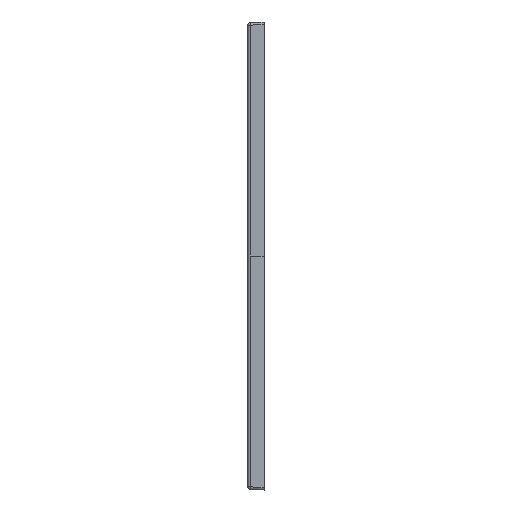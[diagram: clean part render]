
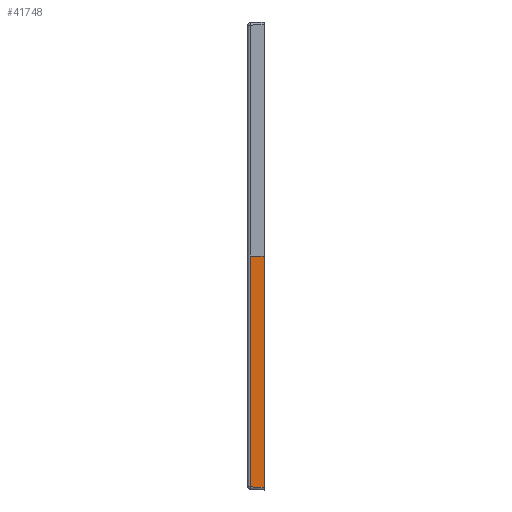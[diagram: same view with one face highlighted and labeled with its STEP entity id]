
A CAD part, left-side view. The second image highlights one B-rep face of the part: STEP entity #41748.
In plain terms, the highlighted free-form (B-spline) face has degree [5, 1] with [6, 2] control points.
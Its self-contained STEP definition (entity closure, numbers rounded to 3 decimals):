
#41679=CARTESIAN_POINT('Vertex',(-600.,0.,-445.003)) ;
#41682=CARTESIAN_POINT('Line Origine',(-599.45,15.75,-444.453)) ;
#41686=CARTESIAN_POINT('Vertex',(-599.069,26.674,-444.072)) ;
#41702=CARTESIAN_POINT('Control Point',(-596.51,99.939,-450.)) ;
#41703=CARTESIAN_POINT('Control Point',(-600.,0.,-450.)) ;
#41704=CARTESIAN_POINT('Control Point',(-596.51,99.939,-270.)) ;
#41705=CARTESIAN_POINT('Control Point',(-600.,0.,-270.)) ;
#41706=CARTESIAN_POINT('Control Point',(-596.51,99.939,-90.)) ;
#41707=CARTESIAN_POINT('Control Point',(-600.,0.,-90.)) ;
#41708=CARTESIAN_POINT('Control Point',(-596.51,99.939,90.)) ;
#41709=CARTESIAN_POINT('Control Point',(-600.,0.,90.)) ;
#41710=CARTESIAN_POINT('Control Point',(-596.51,99.939,270.)) ;
#41711=CARTESIAN_POINT('Control Point',(-600.,0.,270.)) ;
#41712=CARTESIAN_POINT('Control Point',(-596.51,99.939,450.)) ;
#41713=CARTESIAN_POINT('Control Point',(-600.,0.,450.)) ;
#41715=CARTESIAN_POINT('Control Point',(-599.069,26.674,-444.072)) ;
#41716=CARTESIAN_POINT('Control Point',(-599.069,26.674,-355.257)) ;
#41717=CARTESIAN_POINT('Control Point',(-599.069,26.674,-266.443)) ;
#41718=CARTESIAN_POINT('Control Point',(-599.069,26.674,-177.629)) ;
#41719=CARTESIAN_POINT('Control Point',(-599.069,26.674,-88.814)) ;
#41720=CARTESIAN_POINT('Control Point',(-599.069,26.674,0.)) ;
#41721=CARTESIAN_POINT('Vertex',(-599.069,26.674,0.)) ;
#41725=CARTESIAN_POINT('Control Point',(-600.,0.,-445.003)) ;
#41726=CARTESIAN_POINT('Control Point',(-600.,0.,-356.002)) ;
#41727=CARTESIAN_POINT('Control Point',(-600.,0.,-267.002)) ;
#41728=CARTESIAN_POINT('Control Point',(-600.,0.,-178.001)) ;
#41729=CARTESIAN_POINT('Control Point',(-600.,0.,-89.001)) ;
#41730=CARTESIAN_POINT('Control Point',(-600.,0.,0.)) ;
#41731=CARTESIAN_POINT('Vertex',(-600.,0.,0.)) ;
#41735=CARTESIAN_POINT('Control Point',(-599.069,26.674,0.)) ;
#41736=CARTESIAN_POINT('Control Point',(-599.255,21.34,0.)) ;
#41737=CARTESIAN_POINT('Control Point',(-599.441,16.005,0.)) ;
#41738=CARTESIAN_POINT('Control Point',(-599.627,10.67,0.)) ;
#41739=CARTESIAN_POINT('Control Point',(-599.814,5.335,0.)) ;
#41740=CARTESIAN_POINT('Control Point',(-600.,0.,0.)) ;
#41683=DIRECTION('Vector Direction',(0.035,0.999,0.035)) ;
#41684=VECTOR('Line Direction',#41683,1.) ;
#41743=ORIENTED_EDGE('',*,*,#41723,.F.) ;
#41744=ORIENTED_EDGE('',*,*,#41688,.T.) ;
#41745=ORIENTED_EDGE('',*,*,#41733,.T.) ;
#41746=ORIENTED_EDGE('',*,*,#41741,.F.) ;
#41748=ADVANCED_FACE('PD 120X90 H3',(#41747),#41701,.F.) ;
#41714=B_SPLINE_CURVE_WITH_KNOTS('',5,(#41715,#41716,#41717,#41718,#41719,#41720),.UNSPECIFIED.,.F.,.U.,(6,6),(5.928,450.),.UNSPECIFIED.) ;
#41724=B_SPLINE_CURVE_WITH_KNOTS('',5,(#41725,#41726,#41727,#41728,#41729,#41730),.UNSPECIFIED.,.F.,.U.,(6,6),(4.997,450.),.UNSPECIFIED.) ;
#41734=B_SPLINE_CURVE_WITH_KNOTS('',5,(#41735,#41736,#41737,#41738,#41739,#41740),.UNSPECIFIED.,.F.,.U.,(6,6),(73.309,100.),.UNSPECIFIED.) ;
#41701=B_SPLINE_SURFACE_WITH_KNOTS('',5,1,((#41702,#41703),(#41704,#41705),(#41706,#41707),(#41708,#41709),(#41710,#41711),(#41712,#41713)),.UNSPECIFIED.,.F.,.F.,.U.,(6,6),(2,2),(0.,900.),(0.,100.),.UNSPECIFIED.) ;
#41688=EDGE_CURVE('',#41687,#41680,#41685,.F.) ;
#41723=EDGE_CURVE('',#41687,#41722,#41714,.T.) ;
#41733=EDGE_CURVE('',#41680,#41732,#41724,.T.) ;
#41741=EDGE_CURVE('',#41722,#41732,#41734,.T.) ;
#41742=EDGE_LOOP('',(#41743,#41744,#41745,#41746)) ;
#41747=FACE_OUTER_BOUND('',#41742,.T.) ;
#41685=LINE('Line',#41682,#41684) ;
#41680=VERTEX_POINT('',#41679) ;
#41687=VERTEX_POINT('',#41686) ;
#41722=VERTEX_POINT('',#41721) ;
#41732=VERTEX_POINT('',#41731) ;
